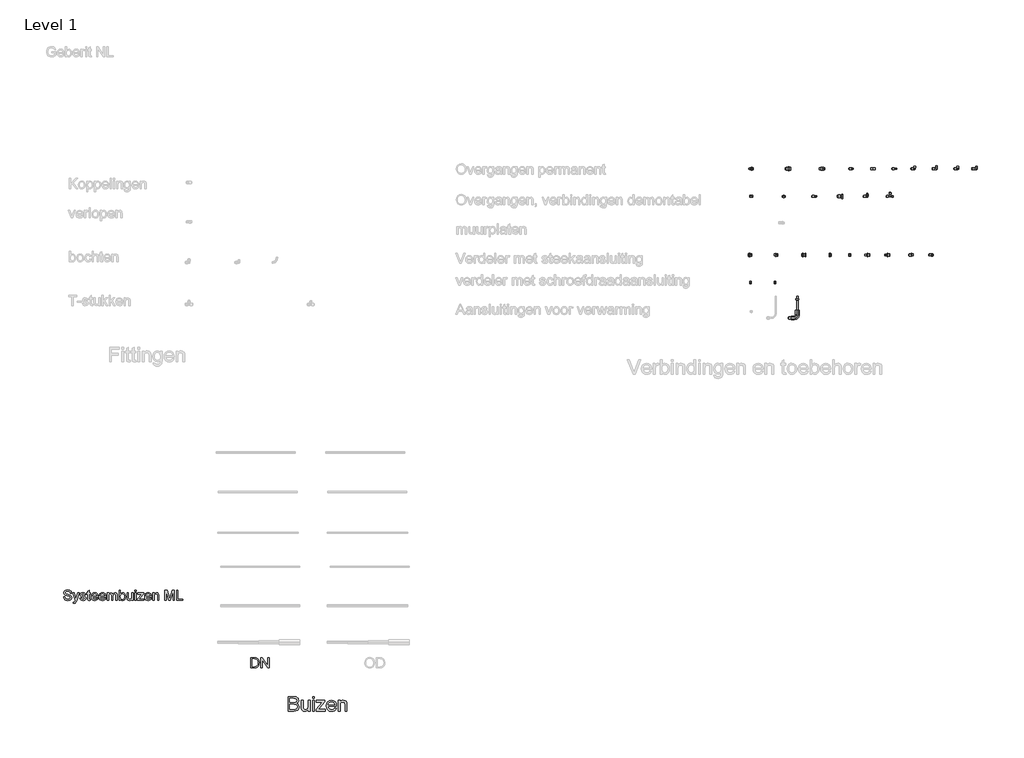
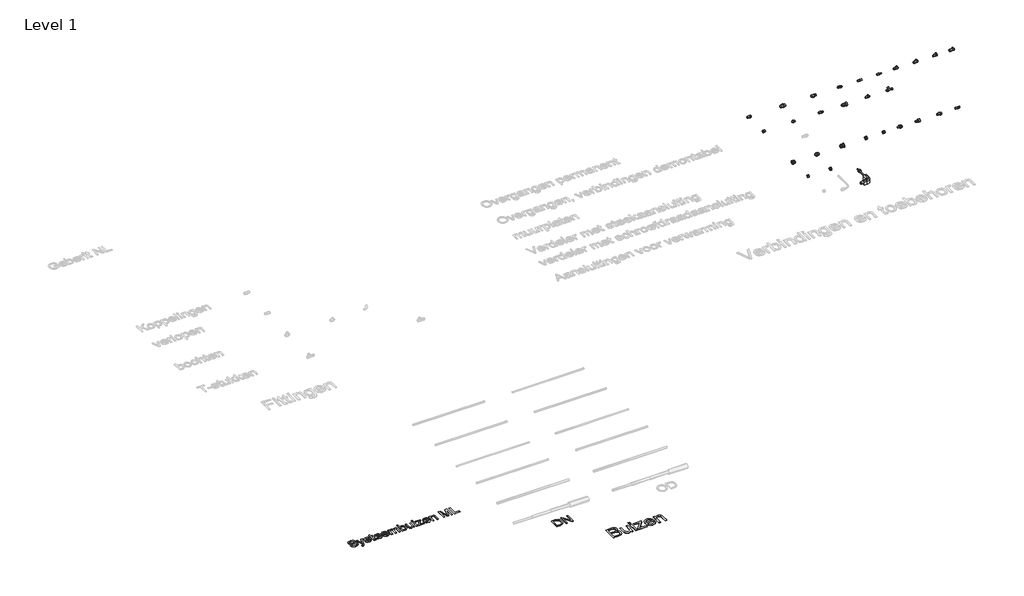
# One storey, part 2 of 9: 28 pipe fittings, 3 proxies.
"""IFC4 building model written with IfcOpenShell, lengths in millimetres."""

from ifc_helpers import new_model, si_unit, origin, origin_with_axes, place, context, project, spatial, polyline, outline, extrude, transform, mapped, element, save
from components import pipe_fitting_d3801dd3, pipe_fitting_dd13a059, pipe_fitting_dc1d4dc1, pipe_fitting_5ea2550a, pipe_fitting_460bc015, pipe_fitting_b5bb4540, pipe_fitting_8df948b1, pipe_fitting_7dc3ead4, pipe_fitting_c68a41fb, pipe_fitting_76addbfd, pipe_fitting_15463989, pipe_fitting_615b61a4, pipe_fitting_1bc5d1c2, pipe_fitting_36b1eb7f, pipe_fitting_9c3efd51, pipe_fitting_35955b42, dn10_15_d14_20_68aab010, dn12_15_d16_20_6858ad53, dn12_15_d16_20_8953fad6, dn12_15_d16_20_5e41d588, dn12_20_d16_25_9b3fed16, dn12_20_d16_25_af78eb85, dn15_25_d20_28_17184077, dn20_25_d22_28_a146997a, dn20_25_d26_32_22cb2c8b, dn25_d28_cefa68ec, dn25_d28_51036117

model = new_model("IFC4")

# Units and contexts
model_context = context("Model", 3, world=origin())
ifc_project = project(units=[si_unit("LENGTHUNIT", "METRE", prefix="MILLI")], contexts=[model_context])

# Site, building, storey
site = spatial("IfcSite", under=ifc_project)
building = spatial("IfcBuilding", under=site)
storey = spatial("IfcBuildingStorey", under=building, Name="Level 1", Elevation=0.0)

# Proxies
placement = place(None, origin())
element("IfcBuildingElementProxy", 1, Name="medium", ObjectType="medium", at=placement, inside=storey, context=model_context, shape_type="SweptSolid", body=[
    extrude(outline(polyline([(1149.9429816, -1764.7412279), (1149.9429816, -1563.8286076), (1226.6095894, -1563.8286076), (1247.6953591, -1565.306267), (1264.1580784, -1569.739245), (1276.7764308, -1577.2379064), (1286.3291, -1587.9126156), (1292.3439706, -1600.4696544), (1294.3489275, -1613.6153043), (1292.6628017, -1625.7124906), (1287.6044242, -1637.0861756), (1279.137007, -1647.0373836), (1267.2237617, -1654.8671387), (1281.4546635, -1662.298355), (1291.9699572, -1673.604595), (1298.4630744, -1688.037832), (1300.6274468, -1704.8500391), (1294.7168095, -1731.8525776), (1280.075106, -1751.0805432), (1258.2229155, -1761.2831372), (1226.0209782, -1764.7412279), (1149.9429816, -1764.7412279)]), holes=[polyline([(1175.0570592, -1739.6271504), (1226.5605385, -1739.6271504), (1245.1998929, -1738.6461318), (1260.9697678, -1733.1769528), (1271.4176164, -1722.0178656), (1275.5133693, -1705.0952938), (1270.7063779, -1685.5730226), (1264.4094644, -1678.5158196), (1255.1327068, -1673.9234261), (1224.1079918, -1670.5634372), (1175.0570592, -1670.5634372), (1175.0570592, -1739.6271504)]), polyline([(1175.0570592, -1645.4493596), (1220.9196812, -1645.4493596), (1247.7014905, -1643.2911186), (1263.8147219, -1633.9959669), (1269.2348499, -1617.6374808), (1264.1826039, -1601.2544693), (1249.7125787, -1591.5669101), (1217.437065, -1588.9426852), (1175.0570592, -1588.9426852), (1175.0570592, -1645.4493596)])]), origin_with_axes(), (0.0, 0.0, 1.0), 5.0),
    extrude(outline(polyline([(1426.1978345, -1764.7412279), (1426.1978345, -1739.3818957), (1417.1111493, -1751.8500297), (1406.5284105, -1760.7558397), (1394.4496183, -1766.0993256), (1380.8747727, -1767.8804876), (1357.2567486, -1762.8772925), (1340.971839, -1750.3202537), (1333.4915717, -1731.8280521), (1332.0200438, -1708.4798082), (1332.0200438, -1617.1960224), (1357.1341213, -1617.1960224), (1357.1341213, -1696.6585334), (1358.6547002, -1722.2631202), (1362.3151261, -1730.8041139), (1368.5875141, -1737.2972311), (1387.3004449, -1742.7664101), (1408.2697186, -1737.1746038), (1416.6267713, -1730.571122), (1422.1266071, -1721.9442892), (1426.1978345, -1693.9607321), (1426.1978345, -1617.1960224), (1451.3119121, -1617.1960224), (1451.3119121, -1764.7412279), (1426.1978345, -1764.7412279)])), origin_with_axes(), (0.0, 0.0, 1.0), 5.0),
    extrude(outline(polyline([(1485.8437687, -1588.9426852), (1485.8437687, -1563.8286076), (1510.9578462, -1563.8286076), (1510.9578462, -1588.9426852), (1485.8437687, -1588.9426852)])), origin_with_axes(), (0.0, 0.0, 1.0), 5.0),
    extrude(outline(polyline([(1485.8437687, -1764.7412279), (1485.8437687, -1617.1960224), (1510.9578462, -1617.1960224), (1510.9578462, -1764.7412279), (1485.8437687, -1764.7412279)])), origin_with_axes(), (0.0, 0.0, 1.0), 5.0),
    extrude(outline(polyline([(1532.9326641, -1764.7412279), (1532.9326641, -1741.0986784), (1619.6056621, -1642.3101), (1593.9520243, -1642.3101), (1539.2111835, -1642.3101), (1539.2111835, -1617.1960224), (1655.3637921, -1617.1960224), (1655.3637921, -1638.5331781), (1578.5009805, -1726.1871949), (1566.7287567, -1739.6271504), (1595.7669088, -1739.6271504), (1658.5030518, -1739.6271504), (1658.5030518, -1764.7412279), (1532.9326641, -1764.7412279)])), origin_with_axes(), (0.0, 0.0, 1.0), 5.0),
    extrude(outline(polyline([(1786.9183935, -1720.7915923), (1811.5419617, -1723.930852), (1802.6698743, -1742.4843672), (1788.5125488, -1756.3535185), (1769.3888165, -1764.9987453), (1745.6175082, -1767.8804876), (1716.1501604, -1762.9079493), (1693.4763668, -1747.9903344), (1679.0186044, -1724.0963988), (1674.1993502, -1692.1948985), (1679.0676553, -1659.220409), (1693.6725705, -1634.5600526), (1716.0397958, -1619.1825852), (1744.1950312, -1614.0567627), (1771.4734811, -1619.1703225), (1793.2704893, -1634.5110017), (1807.5627048, -1659.1223071), (1812.3267767, -1692.0477457), (1812.1796239, -1698.8167744), (1699.3134278, -1698.8167744), (1703.6605667, -1717.6155444), (1713.7589274, -1731.4356447), (1728.3331858, -1739.9337187), (1746.1080175, -1742.7664101), (1770.7315857, -1737.5179603), (1779.8795847, -1730.7121434), (1786.9183935, -1720.7915923)]), holes=[polyline([(1699.3134278, -1673.7026969), (1787.2126991, -1673.7026969), (1783.815922, -1660.4344196), (1777.1572579, -1650.9430641), (1762.5155545, -1642.1138962), (1744.0969293, -1639.1708403), (1727.1682262, -1641.5191537), (1713.1703162, -1648.5640939), (1703.4398375, -1659.5453714), (1699.3134278, -1673.7026969)])]), origin_with_axes(), (0.0, 0.0, 1.0), 5.0),
    extrude(outline(polyline([(1837.4408542, -1764.7412279), (1837.4408542, -1617.1960224), (1862.5549317, -1617.1960224), (1862.5549317, -1637.7974141), (1871.2798664, -1627.4108791), (1881.7583719, -1619.9919256), (1893.9904482, -1615.5405534), (1907.9760954, -1614.0567627), (1931.6922214, -1618.8392287), (1947.8790292, -1631.3962674), (1955.4083473, -1649.8639436), (1956.7327225, -1674.1441553), (1956.7327225, -1764.7412279), (1931.618645, -1764.7412279), (1931.618645, -1677.5286696), (1928.7246399, -1655.3085971), (1918.4975205, -1643.5608987), (1901.2561176, -1639.1708403), (1886.5469692, -1641.6356496), (1874.0083245, -1649.0300777), (1865.4182799, -1663.3161619), (1862.5549317, -1686.4559394), (1862.5549317, -1764.7412279), (1837.4408542, -1764.7412279)])), origin_with_axes(), (0.0, 0.0, 1.0), 5.0),
])
element("IfcBuildingElementProxy", 2, Name="small", ObjectType="small", at=placement, inside=storey, context=model_context, shape_type="SweptSolid", body=[
    extrude(outline(polyline([(-1925.1047199, -198.1654904), (-1907.5248657, -198.1654904), (-1901.8594829, -215.7625125), (-1888.0222148, -226.887264), (-1866.9401239, -231.1277171), (-1848.5705497, -227.9173336), (-1836.7075816, -219.0930708), (-1832.810485, -207.298774), (-1835.7290155, -196.3285329), (-1847.6778227, -188.3454937), (-1873.2750519, -181.6328735), (-1900.8294133, -172.9631212), (-1915.7825902, -159.8812374), (-1920.7097564, -142.4043901), (-1914.615178, -122.5068792), (-1907.1171298, -114.3693295), (-1896.812142, -108.4635972), (-1870.7513814, -103.6737736), (-1842.9395026, -108.686779), (-1832.2782824, -114.8757804), (-1824.39825, -123.416774), (-1819.4109964, -133.7775573), (-1817.4281125, -145.4259275), (-1835.0079668, -145.4259275), (-1838.2355181, -134.9363856), (-1844.9653061, -127.3653741), (-1855.4805998, -122.7815645), (-1870.0646684, -121.2536279), (-1884.9920934, -122.7643966), (-1895.2327019, -127.2967028), (-1901.155602, -133.9664034), (-1903.1299021, -141.8893553), (-1897.5331907, -154.0785121), (-1868.8285849, -163.8985088), (-1837.7204833, -172.7227716), (-1820.7071673, -186.9720675), (-1815.2306307, -206.8524106), (-1816.8057788, -217.689601), (-1821.531223, -227.8829979), (-1829.2138253, -236.6557573), (-1839.6604477, -243.2310348), (-1866.2534109, -248.7075714), (-1883.4770328, -247.2311383), (-1897.6533654, -242.8018391), (-1908.9455033, -235.4025059), (-1917.5165406, -225.0159709), (-1923.018829, -212.3632828), (-1925.1047199, -198.1654904)])), origin_with_axes(), (0.0, 0.0, 1.0), 5.0),
    extrude(outline(polyline([(-1791.0583311, -286.0647618), (-1793.2558129, -269.1372849), (-1784.3285431, -270.6823893), (-1775.9849795, -268.7424249), (-1770.8689672, -263.3345595), (-1766.0619758, -250.3900184), (-1764.6885497, -246.1323975), (-1802.04574, -143.2284458), (-1783.5044874, -143.2284458), (-1763.6928157, -200.5689861), (-1756.7913495, -223.5052022), (-1749.8898833, -203.247167), (-1729.5288411, -143.2284458), (-1711.1249312, -143.2284458), (-1747.0743597, -248.9822566), (-1756.4136573, -271.9184728), (-1766.6113462, -284.3136435), (-1780.3112717, -288.2622435), (-1791.0583311, -286.0647618)])), origin_with_axes(), (0.0, 0.0, 1.0), 5.0),
    extrude(outline(polyline([(-1703.1590597, -215.7453447), (-1685.5792054, -213.5478629), (-1682.8066014, -221.0673708), (-1677.4416557, -226.595411), (-1658.7973962, -231.1277171), (-1640.8741854, -226.9731031), (-1635.0371244, -217.2217777), (-1640.908521, -209.3245776), (-1659.0034101, -204.3115722), (-1685.4761985, -195.7104912), (-1697.0301457, -185.6673127), (-1700.9615779, -171.4866881), (-1697.8026978, -158.3876365), (-1689.184449, -148.3787937), (-1678.008194, -143.1769423), (-1662.8833389, -141.030964), (-1641.4922271, -144.4816971), (-1627.8953086, -153.8209947), (-1621.8522337, -169.5982272), (-1639.4320879, -171.795709), (-1646.0417011, -162.095887), (-1661.5099127, -158.6108183), (-1678.3343827, -161.9413766), (-1683.3817236, -169.7012341), (-1681.2872488, -174.8172464), (-1674.7291391, -178.6971752), (-1659.5871162, -182.4397614), (-1633.783873, -190.7146537), (-1621.8007302, -200.0882869), (-1617.4572701, -215.3676525), (-1622.5561145, -232.1921224), (-1637.2689418, -244.398447), (-1659.0377457, -248.7075714), (-1676.7635265, -246.6302644), (-1689.6994838, -240.3983434), (-1698.3349005, -230.0804797), (-1703.1590597, -215.7453447)])), origin_with_axes(), (0.0, 0.0, 1.0), 5.0),
    extrude(outline(polyline([(-1560.3227437, -231.8487659), (-1558.1252619, -247.0251244), (-1571.275817, -248.7075714), (-1586.0058121, -245.7890409), (-1593.3536418, -238.1321903), (-1595.4824522, -218.183176), (-1595.4824522, -160.8083), (-1608.667343, -160.8083), (-1608.667343, -143.2284458), (-1595.4824522, -143.2284458), (-1595.4824522, -118.1290835), (-1577.902598, -107.794052), (-1577.902598, -143.2284458), (-1560.3227437, -143.2284458), (-1560.3227437, -160.8083), (-1577.902598, -160.8083), (-1577.902598, -217.6681412), (-1576.9755353, -226.7327536), (-1573.9711657, -229.9431371), (-1567.9795943, -231.1277171), (-1560.3227437, -231.8487659)])), origin_with_axes(), (0.0, 0.0, 1.0), 5.0),
    extrude(outline(polyline([(-1470.4320044, -215.7453447), (-1453.1955067, -217.9428264), (-1459.4059679, -230.9302871), (-1469.3160957, -240.638693), (-1482.7027084, -246.6903518), (-1499.3426242, -248.7075714), (-1519.9697676, -245.2267946), (-1535.8414232, -234.7844642), (-1545.9618569, -218.0587093), (-1549.3353348, -195.727659), (-1545.9275212, -172.6455164), (-1535.7040806, -155.3832669), (-1520.0470229, -144.6190397), (-1500.3383581, -141.030964), (-1481.2434432, -144.6104558), (-1465.9855374, -155.3489312), (-1455.9809865, -172.5768451), (-1452.6461363, -195.6246521), (-1452.7491432, -200.3629722), (-1531.7554805, -200.3629722), (-1528.7124833, -213.5221111), (-1521.6436307, -223.1961813), (-1511.4416499, -229.1448332), (-1498.9992676, -231.1277171), (-1481.7627699, -227.4538023), (-1470.4320044, -215.7453447)]), holes=[polyline([(-1531.7554805, -182.7831179), (-1470.2259905, -182.7831179), (-1477.2647994, -166.8513749), (-1487.5139918, -160.6709574), (-1500.4070294, -158.6108183), (-1512.2571216, -160.2546376), (-1522.0556586, -165.1860958), (-1528.8669937, -172.8729901), (-1531.7554805, -182.7831179)])]), origin_with_axes(), (0.0, 0.0, 1.0), 5.0),
    extrude(outline(polyline([(-1362.755397, -215.7453447), (-1345.5188993, -217.9428264), (-1351.7293605, -230.9302871), (-1361.6394883, -240.638693), (-1375.026101, -246.6903518), (-1391.6660167, -248.7075714), (-1412.2931602, -245.2267946), (-1428.1648157, -234.7844642), (-1438.2852494, -218.0587093), (-1441.6587273, -195.727659), (-1438.2509138, -172.6455164), (-1428.0274731, -155.3832669), (-1412.3704154, -144.6190397), (-1392.6617507, -141.030964), (-1373.5668357, -144.6104558), (-1358.30893, -155.3489312), (-1348.3043791, -172.5768451), (-1344.9695288, -195.6246521), (-1345.0725358, -200.3629722), (-1424.0788731, -200.3629722), (-1421.0358758, -213.5221111), (-1413.9670233, -223.1961813), (-1403.7650424, -229.1448332), (-1391.3226602, -231.1277171), (-1374.0861625, -227.4538023), (-1362.755397, -215.7453447)]), holes=[polyline([(-1424.0788731, -182.7831179), (-1362.5493831, -182.7831179), (-1369.5881919, -166.8513749), (-1379.8373843, -160.6709574), (-1392.730422, -158.6108183), (-1404.5805142, -160.2546376), (-1414.3790511, -165.1860958), (-1421.1903863, -172.8729901), (-1424.0788731, -182.7831179)])]), origin_with_axes(), (0.0, 0.0, 1.0), 5.0),
    extrude(outline(polyline([(-1327.3896745, -246.5100896), (-1327.3896745, -143.2284458), (-1309.8098203, -143.2284458), (-1309.8098203, -160.2245939), (-1297.7236704, -146.3014867), (-1280.5215084, -141.030964), (-1262.9073184, -146.4044937), (-1253.2246643, -161.4606774), (-1239.507571, -146.1383923), (-1222.1852341, -141.030964), (-1208.9702997, -143.1554825), (-1199.1975145, -149.5290381), (-1193.1587315, -160.3233089), (-1191.1458039, -175.7099734), (-1191.1458039, -246.5100896), (-1208.7256582, -246.5100896), (-1208.7256582, -183.263817), (-1210.3566017, -168.5853254), (-1216.262334, -161.3576705), (-1226.3055124, -158.6108183), (-1235.8293642, -160.3705205), (-1243.5935137, -165.6496271), (-1248.7567375, -174.8086625), (-1250.4778121, -188.208151), (-1250.4778121, -246.5100896), (-1268.0576664, -246.5100896), (-1268.0576664, -181.3066848), (-1272.1264412, -164.276201), (-1277.4956789, -160.0271639), (-1285.4658424, -158.6108183), (-1298.4790548, -162.3877401), (-1307.1316393, -173.4438203), (-1309.8098203, -194.4229042), (-1309.8098203, -246.5100896), (-1327.3896745, -246.5100896)])), origin_with_axes(), (0.0, 0.0, 1.0), 5.0),
    extrude(outline(polyline([(-1147.1961682, -246.5100896), (-1164.7760225, -246.5100896), (-1164.7760225, -105.8712554), (-1147.1961682, -105.8712554), (-1147.1961682, -158.0271122), (-1134.8868366, -145.280001), (-1119.5903033, -141.030964), (-1101.9761134, -144.8593893), (-1088.3105235, -155.6236165), (-1079.9154564, -172.3622472), (-1076.8767511, -193.3241633), (-1080.0227553, -216.7925821), (-1089.4607679, -234.2522616), (-1103.3109119, -245.093744), (-1119.6933102, -248.7075714), (-1135.3246162, -244.0465065), (-1147.1961682, -230.0633119), (-1147.1961682, -246.5100896)]), holes=[polyline([(-1147.1961682, -194.148219), (-1145.9944204, -208.8095428), (-1142.3891768, -218.7325465), (-1133.1786379, -228.0289245), (-1121.204079, -231.1277171), (-1111.0578935, -228.8443962), (-1102.3881412, -221.9944335), (-1096.4394893, -210.6207485), (-1094.4566054, -194.7662607), (-1096.3579422, -178.6800074), (-1102.0619525, -167.435081), (-1110.4613116, -160.816884), (-1120.4486946, -158.6108183), (-1130.59488, -160.8941392), (-1139.2646324, -167.7441019), (-1145.2132843, -178.911773), (-1147.1961682, -194.148219)])]), origin_with_axes(), (0.0, 0.0, 1.0), 5.0),
    extrude(outline(polyline([(-991.1749615, -246.5100896), (-991.1749615, -228.7585571), (-1004.9435583, -243.7203178), (-1022.9011048, -248.7075714), (-1039.4337216, -245.2053348), (-1050.8331584, -236.4154077), (-1056.0693455, -223.4708666), (-1057.099415, -207.1270958), (-1057.099415, -143.2284458), (-1039.5195608, -143.2284458), (-1039.5195608, -198.8522034), (-1038.4551555, -216.7754142), (-1031.5021858, -227.2992918), (-1018.4031342, -231.1277171), (-1003.7246426, -227.2134527), (-994.0248207, -216.5522325), (-991.1749615, -196.9637425), (-991.1749615, -143.2284458), (-973.5951072, -143.2284458), (-973.5951072, -246.5100896), (-991.1749615, -246.5100896)])), origin_with_axes(), (0.0, 0.0, 1.0), 5.0),
    extrude(outline(polyline([(-949.4228076, -123.4511097), (-949.4228076, -105.8712554), (-931.8429533, -105.8712554), (-931.8429533, -123.4511097), (-949.4228076, -123.4511097)])), origin_with_axes(), (0.0, 0.0, 1.0), 5.0),
    extrude(outline(polyline([(-949.4228076, -246.5100896), (-949.4228076, -143.2284458), (-931.8429533, -143.2284458), (-931.8429533, -246.5100896), (-949.4228076, -246.5100896)])), origin_with_axes(), (0.0, 0.0, 1.0), 5.0),
    extrude(outline(polyline([(-916.4605808, -246.5100896), (-916.4605808, -229.9603049), (-855.7894822, -160.8083), (-873.7470286, -160.8083), (-912.0656173, -160.8083), (-912.0656173, -143.2284458), (-830.7587912, -143.2284458), (-830.7587912, -158.1644548), (-884.5627593, -219.5222665), (-892.803316, -228.9302354), (-872.4766095, -228.9302354), (-828.5613095, -228.9302354), (-828.5613095, -246.5100896), (-916.4605808, -246.5100896)])), origin_with_axes(), (0.0, 0.0, 1.0), 5.0),
    extrude(outline(polyline([(-738.6705702, -215.7453447), (-721.4340725, -217.9428264), (-727.6445337, -230.9302871), (-737.5546615, -240.638693), (-750.9412742, -246.6903518), (-767.5811899, -248.7075714), (-788.2083334, -245.2267946), (-804.0799889, -234.7844642), (-814.2004226, -218.0587093), (-817.5739005, -195.727659), (-814.166087, -172.6455164), (-803.9426463, -155.3832669), (-788.2855886, -144.6190397), (-768.5769239, -141.030964), (-749.4820089, -144.6104558), (-734.2241032, -155.3489312), (-724.2195523, -172.5768451), (-720.884702, -195.6246521), (-720.987709, -200.3629722), (-799.9940463, -200.3629722), (-796.951049, -213.5221111), (-789.8821965, -223.1961813), (-779.6802156, -229.1448332), (-767.2378334, -231.1277171), (-750.0013357, -227.4538023), (-738.6705702, -215.7453447)]), holes=[polyline([(-799.9940463, -182.7831179), (-738.4645563, -182.7831179), (-745.5033651, -166.8513749), (-755.7525575, -160.6709574), (-768.6455952, -158.6108183), (-780.4956874, -160.2546376), (-790.2942243, -165.1860958), (-797.1055595, -172.8729901), (-799.9940463, -182.7831179)])]), origin_with_axes(), (0.0, 0.0, 1.0), 5.0),
    extrude(outline(polyline([(-703.3048477, -246.5100896), (-703.3048477, -143.2284458), (-685.7249935, -143.2284458), (-685.7249935, -157.64942), (-672.2825854, -145.185578), (-653.9301789, -141.030964), (-637.3288907, -144.3786901), (-625.9981253, -153.1686173), (-620.7276025, -166.0959906), (-619.8005399, -183.0921388), (-619.8005399, -246.5100896), (-637.3803942, -246.5100896), (-637.3803942, -185.4612988), (-639.4061977, -169.9072481), (-646.5651813, -161.6838592), (-658.6341633, -158.6108183), (-668.9305672, -160.3361848), (-677.7076185, -165.5122845), (-683.7206497, -175.5125434), (-685.7249935, -191.7103876), (-685.7249935, -246.5100896), (-703.3048477, -246.5100896)])), origin_with_axes(), (0.0, 0.0, 1.0), 5.0),
    extrude(outline(polyline([(-538.4937139, -246.5100896), (-538.4937139, -105.8712554), (-508.2440037, -105.8712554), (-479.4707266, -204.9982853), (-473.6680013, -225.702684), (-467.3845768, -203.2815027), (-439.0919988, -105.8712554), (-408.8422886, -105.8712554), (-408.8422886, -246.5100896), (-426.4221429, -246.5100896), (-426.4221429, -123.4511097), (-461.7535297, -246.5100896), (-485.5824728, -246.5100896), (-520.9138596, -123.4511097), (-520.9138596, -246.5100896), (-538.4937139, -246.5100896)])), origin_with_axes(), (0.0, 0.0, 1.0), 5.0),
    extrude(outline(polyline([(-378.0775436, -246.5100896), (-378.0775436, -105.8712554), (-360.4976893, -105.8712554), (-360.4976893, -228.9302354), (-290.1782722, -228.9302354), (-290.1782722, -246.5100896), (-378.0775436, -246.5100896)])), origin_with_axes(), (0.0, 0.0, 1.0), 5.0),
])
element("IfcBuildingElementProxy", 3, Name="small", ObjectType="small", at=placement, inside=storey, context=model_context, shape_type="SweptSolid", body=[
    extrude(outline(polyline([(637.9632094, -1172.1937552), (637.9632094, -1031.554921), (686.4794869, -1031.554921), (711.5788492, -1033.5807245), (732.2489122, -1043.6410708), (741.9744859, -1054.3537945), (748.9017039, -1067.6760278), (754.429744, -1101.1189537), (750.6871578, -1129.4973708), (741.073175, -1149.9785878), (728.2316408, -1162.7342828), (711.4243387, -1169.7902595), (688.8143113, -1172.1937552), (637.9632094, -1172.1937552)]), holes=[polyline([(655.5430637, -1154.6139009), (686.6511652, -1154.6139009), (709.2783604, -1152.0730626), (722.3259085, -1144.8969111), (733.0214644, -1127.4372316), (736.8498897, -1100.8442685), (734.9743047, -1081.6849742), (729.3475495, -1067.5386852), (721.0340296, -1057.8216954), (711.09815, -1051.9502988), (686.170466, -1049.1347752), (655.5430637, -1049.1347752), (655.5430637, -1154.6139009)])]), origin_with_axes(), (0.0, 0.0, 1.0), 5.0),
    extrude(outline(polyline([(778.6020436, -1172.1937552), (778.6020436, -1031.554921), (797.4179814, -1031.554921), (870.8962785, -1142.9741146), (870.8962785, -1031.554921), (888.4761328, -1031.554921), (888.4761328, -1172.1937552), (869.660195, -1172.1937552), (796.1818979, -1060.7402259), (796.1818979, -1172.1937552), (778.6020436, -1172.1937552)])), origin_with_axes(), (0.0, 0.0, 1.0), 5.0),
])

# Pipe fittings
pipe_fitting_shape = pipe_fitting_d3801dd3(model_context)
element("IfcPipeFitting", 4, ObjectType="NLRS_50_PIF_UN_adapter op verdeler met steekaansluiting, binnendraad_geb : DN25-25/R1\" / d28-28/R1\"", at=placement, inside=storey, context=model_context, shape_type="MappedRepresentation", body=[
    mapped(pipe_fitting_shape, transform((7480.6528401, 4486.7646001, 0.0), x_axis=(1.0, 0.0, 0.0), y_axis=(0.0, 1.0, 0.0), z_axis=(0.0, 0.0, 1.0))),
])
pipe_fitting_2_shape = pipe_fitting_dd13a059(model_context)
element("IfcPipeFitting", 5, ObjectType="NLRS_50_PIF_UN_adapter op verdeler met steekaansluiting, buitendraad_geb : DN25-25/R1\" / d28-28/R1\"", at=placement, inside=storey, context=model_context, shape_type="MappedRepresentation", body=[
    mapped(pipe_fitting_2_shape, transform((7834.7552204, 4486.7646001, 0.0), x_axis=(1.0, 0.0, 0.0), y_axis=(0.0, 1.0, 0.0), z_axis=(0.0, 0.0, 1.0))),
])
pipe_fitting_3_shape = pipe_fitting_dc1d4dc1(model_context)
element("IfcPipeFitting", 6, ObjectType="NLRS_50_PIF_UN_adapter op verdeler met steekaansluiting, wartel_geb : DN25-25/R1\" / d28-28/R1\"", at=placement, inside=storey, context=model_context, shape_type="MappedRepresentation", body=[
    mapped(pipe_fitting_3_shape, transform((8215.6889467, 4486.7646001, 0.0), x_axis=(1.0, 0.0, 0.0), y_axis=(0.0, 1.0, 0.0), z_axis=(0.0, 0.0, 1.0))),
])
pipe_fitting_4_shape = pipe_fitting_5ea2550a(model_context)
element("IfcPipeFitting", 7, ObjectType="NLRS_50_PIF_UN_PushFit snelkoppeling_geb : DN12-20-M25 / d16-25-M25", at=placement, inside=storey, context=model_context, shape_type="MappedRepresentation", body=[
    mapped(pipe_fitting_4_shape, transform((9960.8969484, 4486.7646001, 0.0), x_axis=(1.0, 0.0, 0.0), y_axis=(0.0, 1.0, 0.0), z_axis=(0.0, 0.0, 1.0))),
])
pipe_fitting_5_shape = pipe_fitting_460bc015(model_context)
element("IfcPipeFitting", 8, ObjectType="NLRS_50_PIF_UN_eindkap met binnendraad (brons)_geb : DN20-20 / Rp3/4\"-Rp3/4\"", at=placement, inside=storey, context=model_context, shape_type="MappedRepresentation", body=[
    mapped(pipe_fitting_5_shape, transform((7496.5726098, 4109.9338481, 0.0), x_axis=(1.0, 0.0, 0.0), y_axis=(0.0, 1.0, 0.0), z_axis=(0.0, 0.0, 1.0))),
])
pipe_fitting_6_shape = pipe_fitting_b5bb4540(model_context)
element("IfcPipeFitting", 9, ObjectType="NLRS_50_PIF_UN_eindkap met binnendraad (messing)_geb : DN20-25 / Rp3/4\"-Rp1\"", at=placement, inside=storey, context=model_context, shape_type="MappedRepresentation", body=[
    mapped(pipe_fitting_6_shape, transform((7834.7552204, 4109.9338481, 0.0), x_axis=(1.0, 0.0, 0.0), y_axis=(0.0, 1.0, 0.0), z_axis=(0.0, 0.0, 1.0))),
])
pipe_fitting_7_shape = pipe_fitting_8df948b1(model_context)
element("IfcPipeFitting", 10, ObjectType="NLRS_50_PIF_UN_PushFit overgang met binnendraad (brons)_geb : DN12-20-Rp1\" / d16-25-Rp1\"", at=placement, inside=storey, context=model_context, shape_type="MappedRepresentation", body=[
    mapped(pipe_fitting_7_shape, transform((7496.5726098, 5668.1453557, 0.0), x_axis=(1.0, 0.0, 0.0), y_axis=(0.0, 1.0, 0.0), z_axis=(0.0, 0.0, 1.0))),
])
pipe_fitting_8_shape = pipe_fitting_7dc3ead4(model_context)
element("IfcPipeFitting", 11, ObjectType="NLRS_50_PIF_UN_PushFit overgang met binnendraad (messing)_geb : DN12-20-Rp1\" / d16-25-Rp1\"", at=placement, inside=storey, context=model_context, shape_type="MappedRepresentation", body=[
    mapped(pipe_fitting_8_shape, transform((8000.800171, 5668.1453557, 0.0), x_axis=(1.0, 0.0, 0.0), y_axis=(0.0, 1.0, 0.0), z_axis=(0.0, 0.0, 1.0))),
])
pipe_fitting_9_shape = pipe_fitting_c68a41fb(model_context)
element("IfcPipeFitting", 12, ObjectType="NLRS_50_PIF_UN_PushFit overgang met buitendraad (messing)_geb : DN12-20-R1\" / d16-25-R1\"", at=placement, inside=storey, context=model_context, shape_type="MappedRepresentation", body=[
    mapped(pipe_fitting_9_shape, transform((8465.6295673, 5668.1453557, 0.0), x_axis=(1.0, 0.0, 0.0), y_axis=(0.0, 1.0, 0.0), z_axis=(0.0, 0.0, 1.0))),
])
pipe_fitting_10_shape = pipe_fitting_76addbfd(model_context)
element("IfcPipeFitting", 13, ObjectType="NLRS_50_PIF_UN_PushFit overgang met buitendraad (brons)_geb : DN12-20-R1\" / d16-25-R1\"", at=placement, inside=storey, context=model_context, shape_type="MappedRepresentation", body=[
    mapped(pipe_fitting_10_shape, transform((8860.7345542, 5668.1453557, 0.0), x_axis=(1.0, 0.0, 0.0), y_axis=(0.0, 1.0, 0.0), z_axis=(0.0, 0.0, 1.0))),
])
pipe_fitting_11_shape = pipe_fitting_15463989(model_context)
element("IfcPipeFitting", 14, ObjectType="NLRS_50_PIF_UN_PushFit overgangsbocht 90° met binnendraad_geb : DN12-20-Rp3/4\" / d16-25-Rp3/4\"", at=placement, inside=storey, context=model_context, shape_type="MappedRepresentation", body=[
    mapped(pipe_fitting_11_shape, transform((9735.3194103, 5668.1453557, 0.0), x_axis=(1.0, 0.0, 0.0), y_axis=(0.0, 1.0, 0.0), z_axis=(0.0, 0.0, 1.0))),
])
pipe_fitting_12_shape = pipe_fitting_615b61a4(model_context)
element("IfcPipeFitting", 15, ObjectType="NLRS_50_PIF_UN_PushFit overgangsbocht 90° met buitendraad_geb : DN12-20-R3/4\" / d16-25-R3/4\"", at=placement, inside=storey, context=model_context, shape_type="MappedRepresentation", body=[
    mapped(pipe_fitting_12_shape, transform((10031.8491697, 5668.1453557, 0.0), x_axis=(1.0, 0.0, 0.0), y_axis=(0.0, 1.0, 0.0), z_axis=(0.0, 0.0, 1.0))),
])
element("IfcPipeFitting", 16, ObjectType="NLRS_50_PIF_UN_PushFit overgangsknie 90° met binnendraad_geb : DN12-20-Rp3/4\" / d16-25-Rp3/4\"", at=placement, inside=storey, context=model_context, shape_type="MappedRepresentation", body=[
    mapped(pipe_fitting_11_shape, transform((10327.2942806, 5668.1453557, 0.0), x_axis=(1.0, 0.0, 0.0), y_axis=(0.0, 1.0, 0.0), z_axis=(0.0, 0.0, 1.0))),
])
pipe_fitting_13_shape = pipe_fitting_1bc5d1c2(model_context)
element("IfcPipeFitting", 17, ObjectType="NLRS_50_PIF_UN_PushFit overgangsknie 90° met buitendraad_geb : DN12-20-R1\" / d16-25-R1\"", at=placement, inside=storey, context=model_context, shape_type="MappedRepresentation", body=[
    mapped(pipe_fitting_13_shape, transform((10581.9883418, 5668.1453557, 0.0), x_axis=(1.0, 0.0, 0.0), y_axis=(0.0, 1.0, 0.0), z_axis=(0.0, 0.0, 1.0))),
])
pipe_fitting_14_shape = pipe_fitting_36b1eb7f(model_context)
element("IfcPipeFitting", 18, ObjectType="NLRS_50_PIF_UN_adapter met buitendraad MF 1_2_ en binnendraad_geb : DN15-15 / G1/2\"-R1/2\"", at=placement, inside=storey, context=model_context, shape_type="MappedRepresentation", body=[
    mapped(pipe_fitting_14_shape, transform((7496.5726098, 5289.1186261, 0.0), x_axis=(1.0, 0.0, 0.0), y_axis=(0.0, 1.0, 0.0), z_axis=(0.0, 0.0, 1.0))),
])
pipe_fitting_15_shape = pipe_fitting_9c3efd51(model_context)
element("IfcPipeFitting", 19, ObjectType="NLRS_50_PIF_UN_adapter met buitendraad MF 1_2_ en buitendraad_geb : DN15-15 / R1/2\"-R1/2\"", at=placement, inside=storey, context=model_context, shape_type="MappedRepresentation", body=[
    mapped(pipe_fitting_15_shape, transform((7944.0737831, 5289.1186261, 0.0), x_axis=(1.0, 0.0, 0.0), y_axis=(0.0, 1.0, 0.0), z_axis=(0.0, 0.0, 1.0))),
])
pipe_fitting_16_shape = pipe_fitting_35955b42(model_context)
element("IfcPipeFitting", 20, ObjectType="NLRS_50_PIF_UN_PushFit overgang met wartel_geb : DN15-20-G1\" / d20-25-G1\"", at=placement, inside=storey, context=model_context, shape_type="MappedRepresentation", body=[
    mapped(pipe_fitting_16_shape, transform((8721.113608, 5289.1186261, 0.0), x_axis=(1.0, 0.0, 0.0), y_axis=(0.0, 1.0, 0.0), z_axis=(0.0, 0.0, 1.0))),
])
dn10_15_d14_20_shape = dn10_15_d14_20_68aab010(model_context)
element("IfcPipeFitting", 21, ObjectType="NLRS_50_PIF_UN_PushFit overgang met MasterFix_geb : DN10-15 / d14-20", at=placement, inside=storey, context=model_context, shape_type="MappedRepresentation", body=[
    mapped(dn10_15_d14_20_shape, transform((8359.3881723, 5289.1186261, 0.0), x_axis=(1.0, 0.0, 0.0), y_axis=(0.0, 1.0, 0.0), z_axis=(0.0, 0.0, 1.0))),
])
dn12_15_d16_20_shape = dn12_15_d16_20_6858ad53(model_context)
element("IfcPipeFitting", 22, ObjectType="NLRS_50_PIF_UN_PushFit radiatoraansluiting 90° met isolatiebox en schroefaansluiting voor Euroconus_geb : DN12-15 / d16-20", at=placement, inside=storey, context=model_context, shape_type="MappedRepresentation", body=[
    mapped(dn12_15_d16_20_shape, transform((8127.6336508, 3624.2053116, 0.0), x_axis=(1.0, 0.0, 0.0), y_axis=(0.0, 1.0, 0.0), z_axis=(0.0, 0.0, 1.0))),
])
dn12_15_d16_20_2_shape = dn12_15_d16_20_8953fad6(model_context)
element("IfcPipeFitting", 23, ObjectType="NLRS_50_PIF_UN_PushFit overgangsknie 90° met MasterFix_geb : DN12-15 / d16-20", at=placement, inside=storey, context=model_context, shape_type="MappedRepresentation", body=[
    mapped(dn12_15_d16_20_2_shape, transform((9086.1883534, 5289.1186261, 0.0), x_axis=(1.0, 0.0, 0.0), y_axis=(0.0, 1.0, 0.0), z_axis=(0.0, 0.0, 1.0))),
])
dn12_15_d16_20_3_shape = dn12_15_d16_20_5e41d588(model_context)
element("IfcPipeFitting", 24, ObjectType="NLRS_50_PIF_UN_PushFit overgangs-T-stuk met MasterFix, aftakking_geb : DN12-15 / d16-20", at=placement, inside=storey, context=model_context, shape_type="MappedRepresentation", body=[
    mapped(dn12_15_d16_20_3_shape, transform((9401.0234549, 5289.1186261, 0.0), x_axis=(1.0, 0.0, 0.0), y_axis=(0.0, 1.0, 0.0), z_axis=(0.0, 0.0, 1.0))),
])
dn12_20_d16_25_shape = dn12_20_d16_25_9b3fed16(model_context)
element("IfcPipeFitting", 25, ObjectType="NLRS_50_PIF_UN_PushFit overgang naar Geberit Mapress, met insteekeinden_geb : DN12-20 / d16-25", at=placement, inside=storey, context=model_context, shape_type="MappedRepresentation", body=[
    mapped(dn12_20_d16_25_shape, transform((9164.4805584, 5668.1453557, 0.0), x_axis=(1.0, 0.0, 0.0), y_axis=(0.0, 1.0, 0.0), z_axis=(0.0, 0.0, 1.0))),
])
dn12_20_d16_25_2_shape = dn12_20_d16_25_af78eb85(model_context)
element("IfcPipeFitting", 26, ObjectType="NLRS_50_PIF_UN_PushFit overgang naar Geberit Mepla_geb : DN12-20 / d16-25", at=placement, inside=storey, context=model_context, shape_type="MappedRepresentation", body=[
    mapped(dn12_20_d16_25_2_shape, transform((9458.6373137, 5668.1453557, 0.0), x_axis=(1.0, 0.0, 0.0), y_axis=(0.0, 1.0, 0.0), z_axis=(0.0, 0.0, 1.0))),
])
dn15_25_d20_28_shape = dn15_25_d20_28_17184077(model_context)
element("IfcPipeFitting", 27, ObjectType="NLRS_50_PIF_UN_PushFit adapter op verdeler met steekaansluiting_geb : DN15-25 / d20-28", at=placement, inside=storey, context=model_context, shape_type="MappedRepresentation", body=[
    mapped(dn15_25_d20_28_shape, transform((9686.2703085, 4486.7646001, 0.0), x_axis=(1.0, 0.0, 0.0), y_axis=(0.0, 1.0, 0.0), z_axis=(0.0, 0.0, 1.0))),
])
dn20_25_d22_28_shape = dn20_25_d22_28_a146997a(model_context)
element("IfcPipeFitting", 28, ObjectType="NLRS_50_PIF_UN_Mapress adapter op verdeler met steekaansluiting, insteekeinde_geb : DN20-25 / d22-28", at=placement, inside=storey, context=model_context, shape_type="MappedRepresentation", body=[
    mapped(dn20_25_d22_28_shape, transform((9086.1883534, 4486.7646001, 0.0), x_axis=(1.0, 0.0, 0.0), y_axis=(0.0, 1.0, 0.0), z_axis=(0.0, 0.0, 1.0))),
])
dn20_25_d26_32_shape = dn20_25_d26_32_22cb2c8b(model_context)
element("IfcPipeFitting", 29, ObjectType="NLRS_50_PIF_UN_Mepla adapter op verdeler met steekaansluiting_geb : DN20-25 / d26-32", at=placement, inside=storey, context=model_context, shape_type="MappedRepresentation", body=[
    mapped(dn20_25_d26_32_shape, transform((9358.4901255, 4486.7646001, 0.0), x_axis=(1.0, 0.0, 0.0), y_axis=(0.0, 1.0, 0.0), z_axis=(0.0, 0.0, 1.0))),
])
dn25_d28_shape = dn25_d28_cefa68ec(model_context)
element("IfcPipeFitting", 30, ObjectType="NLRS_50_PIF_UN_kap op verdeler met steekaansluiting, demontabel_geb : DN25 / d28", at=placement, inside=storey, context=model_context, shape_type="MappedRepresentation", body=[
    mapped(dn25_d28_shape, transform((8592.193211, 4486.7646001, 0.0), x_axis=(1.0, 0.0, 0.0), y_axis=(0.0, 1.0, 0.0), z_axis=(0.0, 0.0, 1.0))),
])
dn25_d28_2_shape = dn25_d28_51036117(model_context)
element("IfcPipeFitting", 31, ObjectType="NLRS_50_PIF_UN_kap op verdeler met steekaansluiting, permanent_geb : DN25 / d28", at=placement, inside=storey, context=model_context, shape_type="MappedRepresentation", body=[
    mapped(dn25_d28_2_shape, transform((8860.7345542, 4486.7646001, 0.0), x_axis=(1.0, 0.0, 0.0), y_axis=(0.0, 1.0, 0.0), z_axis=(0.0, 0.0, 1.0))),
])

save(model, "model.ifc")
